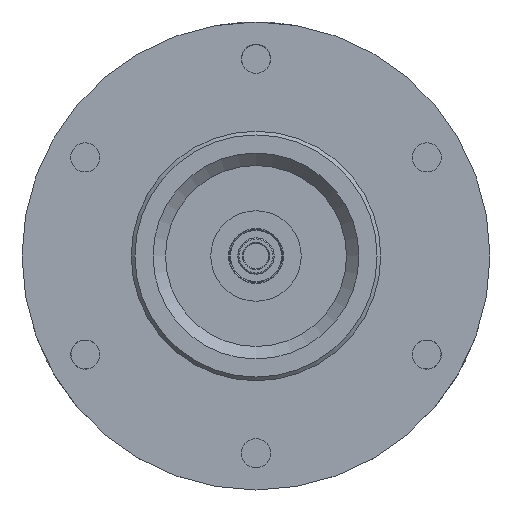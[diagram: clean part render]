
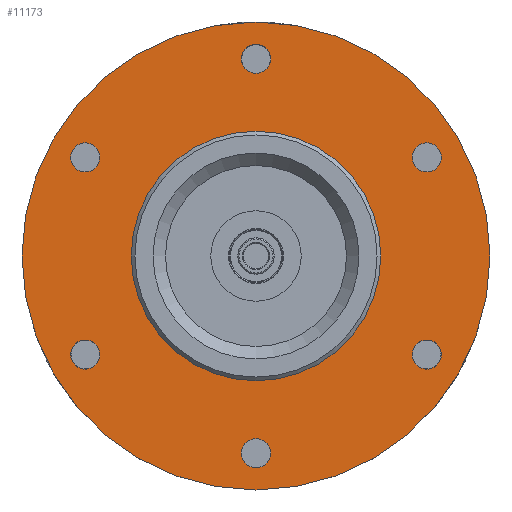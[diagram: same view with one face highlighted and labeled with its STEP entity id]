
A CAD part, left-side view. The second image highlights one B-rep face of the part: STEP entity #11173.
In plain terms, the highlighted planar face has unit normal (-1, 0, 0).
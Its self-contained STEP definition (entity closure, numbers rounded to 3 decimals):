
#11022=CARTESIAN_POINT('',(421.403,9.375,-296.116));
#11023=VERTEX_POINT('',#11022);
#11024=CARTESIAN_POINT('',(421.403,-9.375,-263.64));
#11025=VERTEX_POINT('',#11024);
#11026=CARTESIAN_POINT('',(421.403,0.,-279.878));
#11027=DIRECTION('',(-1.,0.,0.));
#11028=DIRECTION('',(0.,0.5,-0.866));
#11029=AXIS2_PLACEMENT_3D('',#11026,#11027,#11028);
#11030=CIRCLE('',#11029,18.75);
#11031=EDGE_CURVE('',#11023,#11025,#11030,.T.);
#11032=ORIENTED_EDGE('',*,*,#11031,.T.);
#11033=EDGE_CURVE('',#11025,#11023,#11030,.T.);
#11034=ORIENTED_EDGE('',*,*,#11033,.T.);
#11035=EDGE_LOOP('',(#11032,#11034));
#11036=FACE_OUTER_BOUND('',#11035,.T.);
#11037=CARTESIAN_POINT('',(421.403,0.,-262.912));
#11038=VERTEX_POINT('',#11037);
#11039=CARTESIAN_POINT('',(421.403,0.,-265.245));
#11040=VERTEX_POINT('',#11039);
#11041=CARTESIAN_POINT('',(421.403,0.,-264.078));
#11042=DIRECTION('',(1.,0.,0.));
#11043=DIRECTION('',(0.,0.,1.));
#11044=AXIS2_PLACEMENT_3D('',#11041,#11042,#11043);
#11045=CIRCLE('',#11044,1.167);
#11046=EDGE_CURVE('',#11038,#11040,#11045,.T.);
#11047=ORIENTED_EDGE('',*,*,#11046,.T.);
#11048=CARTESIAN_POINT('',(421.403,0.,-264.078));
#11049=DIRECTION('',(1.,0.,0.));
#11050=DIRECTION('',(0.,0.,1.));
#11051=AXIS2_PLACEMENT_3D('',#11048,#11049,#11050);
#11052=CIRCLE('',#11051,1.167);
#11053=EDGE_CURVE('',#11040,#11038,#11052,.T.);
#11054=ORIENTED_EDGE('',*,*,#11053,.T.);
#11055=EDGE_LOOP('',(#11047,#11054));
#11056=FACE_BOUND('',#11055,.T.);
#11057=CARTESIAN_POINT('',(421.403,14.694,-271.395));
#11058=VERTEX_POINT('',#11057);
#11059=CARTESIAN_POINT('',(421.403,12.673,-272.562));
#11060=VERTEX_POINT('',#11059);
#11061=CARTESIAN_POINT('',(421.403,13.683,-271.978));
#11062=DIRECTION('',(1.,0.,0.));
#11063=DIRECTION('',(0.,0.866,0.5));
#11064=AXIS2_PLACEMENT_3D('',#11061,#11062,#11063);
#11065=CIRCLE('',#11064,1.167);
#11066=EDGE_CURVE('',#11058,#11060,#11065,.T.);
#11067=ORIENTED_EDGE('',*,*,#11066,.T.);
#11068=CARTESIAN_POINT('',(421.403,13.683,-271.978));
#11069=DIRECTION('',(1.,0.,0.));
#11070=DIRECTION('',(0.,0.866,0.5));
#11071=AXIS2_PLACEMENT_3D('',#11068,#11069,#11070);
#11072=CIRCLE('',#11071,1.167);
#11073=EDGE_CURVE('',#11060,#11058,#11072,.T.);
#11074=ORIENTED_EDGE('',*,*,#11073,.T.);
#11075=EDGE_LOOP('',(#11067,#11074));
#11076=FACE_BOUND('',#11075,.T.);
#11077=CARTESIAN_POINT('',(421.403,14.694,-288.362));
#11078=VERTEX_POINT('',#11077);
#11079=CARTESIAN_POINT('',(421.403,12.673,-287.195));
#11080=VERTEX_POINT('',#11079);
#11081=CARTESIAN_POINT('',(421.403,13.683,-287.778));
#11082=DIRECTION('',(1.,0.,0.));
#11083=DIRECTION('',(0.,0.866,-0.5));
#11084=AXIS2_PLACEMENT_3D('',#11081,#11082,#11083);
#11085=CIRCLE('',#11084,1.167);
#11086=EDGE_CURVE('',#11078,#11080,#11085,.T.);
#11087=ORIENTED_EDGE('',*,*,#11086,.T.);
#11088=CARTESIAN_POINT('',(421.403,13.683,-287.778));
#11089=DIRECTION('',(1.,0.,0.));
#11090=DIRECTION('',(0.,0.866,-0.5));
#11091=AXIS2_PLACEMENT_3D('',#11088,#11089,#11090);
#11092=CIRCLE('',#11091,1.167);
#11093=EDGE_CURVE('',#11080,#11078,#11092,.T.);
#11094=ORIENTED_EDGE('',*,*,#11093,.T.);
#11095=EDGE_LOOP('',(#11087,#11094));
#11096=FACE_BOUND('',#11095,.T.);
#11097=CARTESIAN_POINT('',(421.403,0.,-296.845));
#11098=VERTEX_POINT('',#11097);
#11099=CARTESIAN_POINT('',(421.403,0.,-294.512));
#11100=VERTEX_POINT('',#11099);
#11101=CARTESIAN_POINT('',(421.403,0.,-295.678));
#11102=DIRECTION('',(1.,0.,0.));
#11103=DIRECTION('',(0.,0.,-1.));
#11104=AXIS2_PLACEMENT_3D('',#11101,#11102,#11103);
#11105=CIRCLE('',#11104,1.167);
#11106=EDGE_CURVE('',#11098,#11100,#11105,.T.);
#11107=ORIENTED_EDGE('',*,*,#11106,.T.);
#11108=CARTESIAN_POINT('',(421.403,0.,-295.678));
#11109=DIRECTION('',(1.,0.,0.));
#11110=DIRECTION('',(0.,0.,-1.));
#11111=AXIS2_PLACEMENT_3D('',#11108,#11109,#11110);
#11112=CIRCLE('',#11111,1.167);
#11113=EDGE_CURVE('',#11100,#11098,#11112,.T.);
#11114=ORIENTED_EDGE('',*,*,#11113,.T.);
#11115=EDGE_LOOP('',(#11107,#11114));
#11116=FACE_BOUND('',#11115,.T.);
#11117=CARTESIAN_POINT('',(421.403,-14.694,-288.362));
#11118=VERTEX_POINT('',#11117);
#11119=CARTESIAN_POINT('',(421.403,-12.673,-287.195));
#11120=VERTEX_POINT('',#11119);
#11121=CARTESIAN_POINT('',(421.403,-13.683,-287.778));
#11122=DIRECTION('',(1.,0.,0.));
#11123=DIRECTION('',(0.,-0.866,-0.5));
#11124=AXIS2_PLACEMENT_3D('',#11121,#11122,#11123);
#11125=CIRCLE('',#11124,1.167);
#11126=EDGE_CURVE('',#11118,#11120,#11125,.T.);
#11127=ORIENTED_EDGE('',*,*,#11126,.T.);
#11128=CARTESIAN_POINT('',(421.403,-13.683,-287.778));
#11129=DIRECTION('',(1.,0.,0.));
#11130=DIRECTION('',(0.,-0.866,-0.5));
#11131=AXIS2_PLACEMENT_3D('',#11128,#11129,#11130);
#11132=CIRCLE('',#11131,1.167);
#11133=EDGE_CURVE('',#11120,#11118,#11132,.T.);
#11134=ORIENTED_EDGE('',*,*,#11133,.T.);
#11135=EDGE_LOOP('',(#11127,#11134));
#11136=FACE_BOUND('',#11135,.T.);
#11137=CARTESIAN_POINT('',(421.403,-14.694,-271.395));
#11138=VERTEX_POINT('',#11137);
#11139=CARTESIAN_POINT('',(421.403,-12.673,-272.562));
#11140=VERTEX_POINT('',#11139);
#11141=CARTESIAN_POINT('',(421.403,-13.683,-271.978));
#11142=DIRECTION('',(1.,0.,0.));
#11143=DIRECTION('',(0.,-0.866,0.5));
#11144=AXIS2_PLACEMENT_3D('',#11141,#11142,#11143);
#11145=CIRCLE('',#11144,1.167);
#11146=EDGE_CURVE('',#11138,#11140,#11145,.T.);
#11147=ORIENTED_EDGE('',*,*,#11146,.T.);
#11148=CARTESIAN_POINT('',(421.403,-13.683,-271.978));
#11149=DIRECTION('',(1.,0.,0.));
#11150=DIRECTION('',(0.,-0.866,0.5));
#11151=AXIS2_PLACEMENT_3D('',#11148,#11149,#11150);
#11152=CIRCLE('',#11151,1.167);
#11153=EDGE_CURVE('',#11140,#11138,#11152,.T.);
#11154=ORIENTED_EDGE('',*,*,#11153,.T.);
#11155=EDGE_LOOP('',(#11147,#11154));
#11156=FACE_BOUND('',#11155,.T.);
#11157=CARTESIAN_POINT('',(421.403,5.,-288.539));
#11158=VERTEX_POINT('',#11157);
#11159=CARTESIAN_POINT('',(421.403,0.,-279.878));
#11160=DIRECTION('',(-1.,0.,0.));
#11161=DIRECTION('',(0.,0.5,-0.866));
#11162=AXIS2_PLACEMENT_3D('',#11159,#11160,#11161);
#11163=CIRCLE('',#11162,10.);
#11164=EDGE_CURVE('',#11158,#11158,#11163,.T.);
#11165=ORIENTED_EDGE('',*,*,#11164,.F.);
#11166=EDGE_LOOP('',(#11165));
#11167=FACE_BOUND('',#11166,.T.);
#11168=CARTESIAN_POINT('',(421.403,7.187,-292.327));
#11169=DIRECTION('',(-1.,0.,0.));
#11170=DIRECTION('',(0.,0.5,-0.866));
#11171=AXIS2_PLACEMENT_3D('',#11168,#11169,#11170);
#11172=PLANE('',#11171);
#11173=ADVANCED_FACE('',(#11036,#11056,#11076,#11096,#11116,#11136,#11156,#11167),#11172,.T.);
